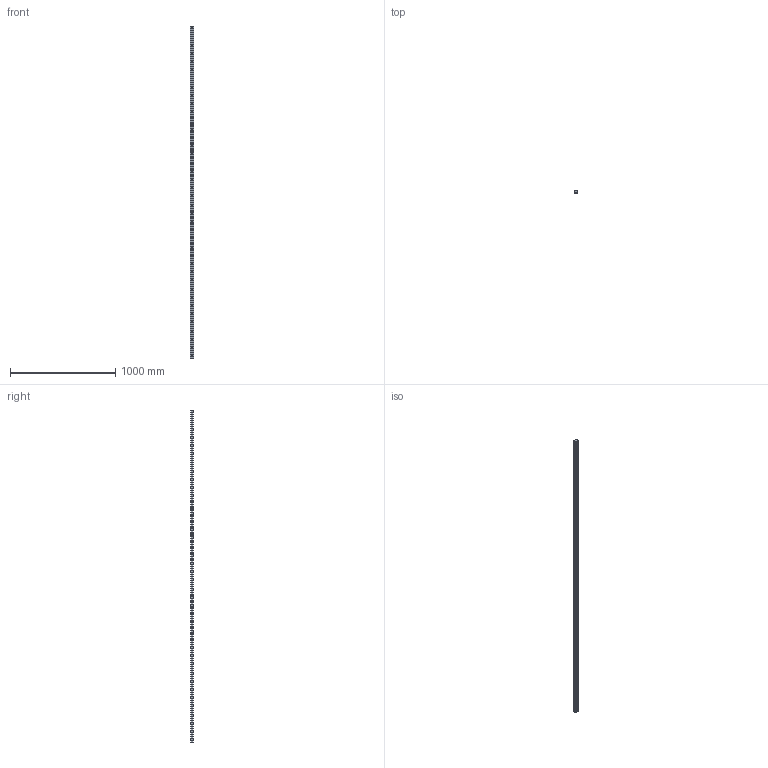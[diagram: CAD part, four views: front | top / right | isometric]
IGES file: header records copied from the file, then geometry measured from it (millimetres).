
Start section: SolidWorks IGES file using analytic representation for surfaces
Global section: file name: C:\Users\IanO\Desktop\Temp File\GENERAL\L1016_v2\L1016.RF35_v2\L1016.RF35_v2_20190612_IGES\L1016.RF35-3160.igs; native system: SolidWorks 2017; preprocessor: SolidWorks 2017; author: IanO; date: 190613.173243; units: millimetre
Bounding box: 34 x 26 x 3160 mm (x, y, z)
Surface area: 411530.4 mm2 (no closed solid volume)
Topology: 0 solids, 0 shells, 306 faces, 4968 edges, 4888 vertices
Faces by surface type: revolution 244, bspline 62
